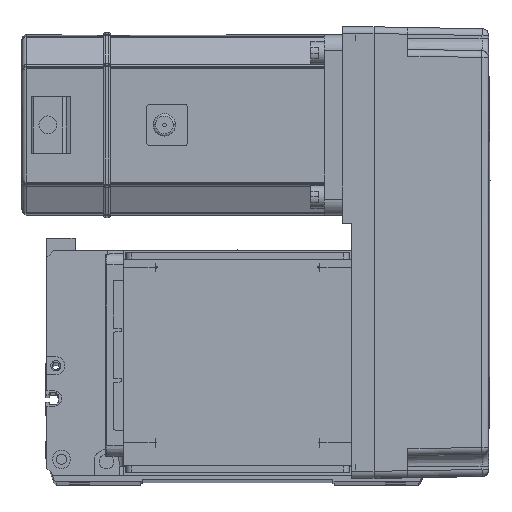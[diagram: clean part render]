
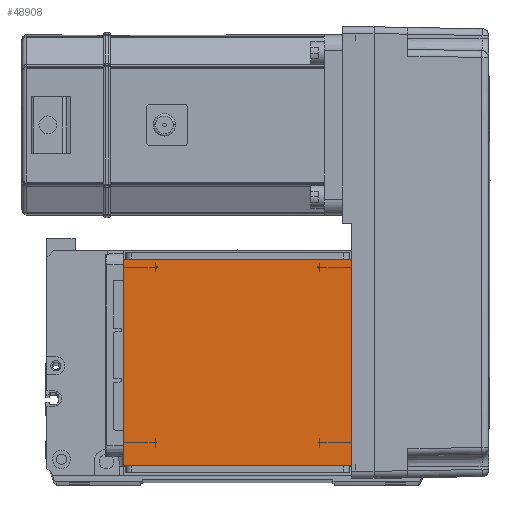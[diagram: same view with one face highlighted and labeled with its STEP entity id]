
A CAD part, top view. The second image highlights one B-rep face of the part: STEP entity #48908.
In plain terms, the highlighted planar face has unit normal (0, 0, 1).
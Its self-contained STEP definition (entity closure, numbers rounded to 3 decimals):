
#894 = VERTEX_POINT ( 'NONE', #33975 ) ;
#2762 = ORIENTED_EDGE ( 'NONE', *, *, #37608, .F. ) ;
#4016 = CARTESIAN_POINT ( 'NONE',  ( -70.004, 20., 115. ) ) ;
#4359 = EDGE_CURVE ( 'NONE', #13392, #894, #7251, .T. ) ;
#6786 = CARTESIAN_POINT ( 'NONE',  ( -50.5, 111.5, 115. ) ) ;
#7251 = LINE ( 'NONE', #41090, #23190 ) ;
#7466 = CARTESIAN_POINT ( 'NONE',  ( -70.004, 111.5, 115. ) ) ;
#8032 = AXIS2_PLACEMENT_3D ( 'NONE', #23510, #54320, #19229 ) ;
#8893 = EDGE_CURVE ( 'NONE', #38067, #56956, #24972, .T. ) ;
#13322 = FACE_OUTER_BOUND ( 'NONE', #38471, .T. ) ;
#13392 = VERTEX_POINT ( 'NONE', #6786 ) ;
#14064 = DIRECTION ( 'NONE',  ( 0., 1., 0. ) ) ;
#19229 = DIRECTION ( 'NONE',  ( 1., 0., 0. ) ) ;
#19270 = CARTESIAN_POINT ( 'NONE',  ( 50.5, 111.5, 115. ) ) ;
#19413 = ORIENTED_EDGE ( 'NONE', *, *, #8893, .T. ) ;
#20790 = DIRECTION ( 'NONE',  ( 1., 0., 0. ) ) ;
#22903 = LINE ( 'NONE', #7466, #29122 ) ;
#23190 = VECTOR ( 'NONE', #49557, 1000. ) ;
#23510 = CARTESIAN_POINT ( 'NONE',  ( 0., 0., 115. ) ) ;
#24014 = LINE ( 'NONE', #4016, #38481 ) ;
#24972 = LINE ( 'NONE', #36833, #30516 ) ;
#29122 = VECTOR ( 'NONE', #20790, 1000. ) ;
#29683 = CARTESIAN_POINT ( 'NONE',  ( 50.5, 20., 115. ) ) ;
#30516 = VECTOR ( 'NONE', #14064, 1000. ) ;
#33975 = CARTESIAN_POINT ( 'NONE',  ( -50.5, 20., 115. ) ) ;
#36833 = CARTESIAN_POINT ( 'NONE',  ( 50.5, 122., 115. ) ) ;
#37608 = EDGE_CURVE ( 'NONE', #38067, #894, #24014, .T. ) ;
#38067 = VERTEX_POINT ( 'NONE', #29683 ) ;
#38471 = EDGE_LOOP ( 'NONE', ( #56347, #42873, #2762, #19413 ) ) ;
#38481 = VECTOR ( 'NONE', #48962, 1000. ) ;
#41090 = CARTESIAN_POINT ( 'NONE',  ( -50.5, 122., 115. ) ) ;
#42873 = ORIENTED_EDGE ( 'NONE', *, *, #4359, .T. ) ;
#45620 = PLANE ( 'NONE',  #8032 ) ;
#48908 = ADVANCED_FACE ( 'NONE', ( #13322 ), #45620, .T. ) ;
#48962 = DIRECTION ( 'NONE',  ( -1., 0., 0. ) ) ;
#49557 = DIRECTION ( 'NONE',  ( 0., -1., 0. ) ) ;
#50805 = EDGE_CURVE ( 'NONE', #13392, #56956, #22903, .T. ) ;
#54320 = DIRECTION ( 'NONE',  ( 0., 0., 1. ) ) ;
#56347 = ORIENTED_EDGE ( 'NONE', *, *, #50805, .F. ) ;
#56956 = VERTEX_POINT ( 'NONE', #19270 ) ;
